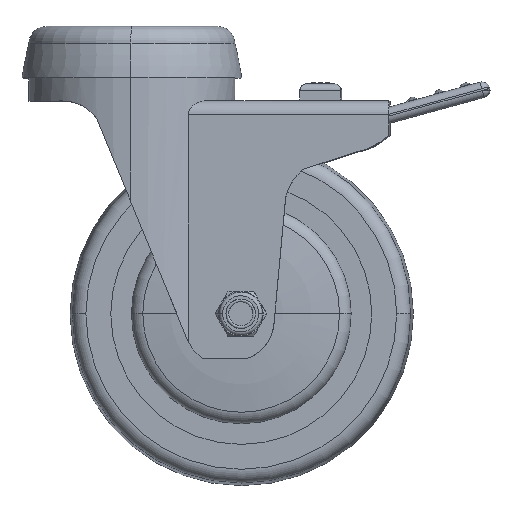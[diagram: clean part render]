
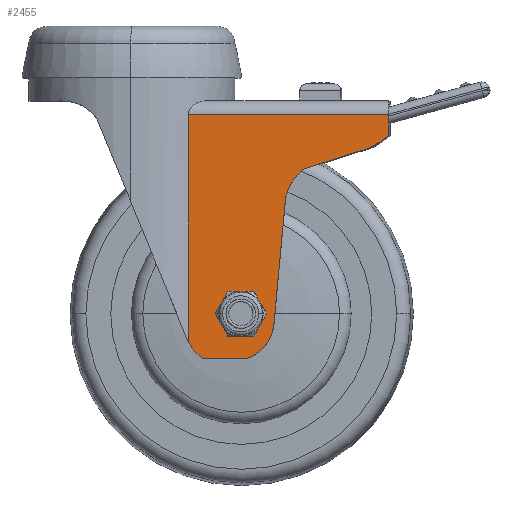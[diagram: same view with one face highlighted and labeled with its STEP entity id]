
A CAD part, top view. The second image highlights one B-rep face of the part: STEP entity #2455.
In plain terms, the highlighted planar face has unit normal (-0.009, 0, 1) as drawn and (0, 0, 1) by its records, which use the part's own axes.
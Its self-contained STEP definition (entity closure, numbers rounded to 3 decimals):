
#887 = AXIS2_PLACEMENT_3D ( 'NONE', #16455, #27124, #4292 ) ;
#1059 = DIRECTION ( 'NONE',  ( -0.949, -0.316, 0. ) ) ;
#1075 = CARTESIAN_POINT ( 'NONE',  ( 75., 0., 25. ) ) ;
#1090 = DIRECTION ( 'NONE',  ( 0., 1., 0. ) ) ;
#1648 = CARTESIAN_POINT ( 'NONE',  ( 45., 46.972, 25. ) ) ;
#1728 = CARTESIAN_POINT ( 'NONE',  ( 75., 71., 25. ) ) ;
#2043 = CARTESIAN_POINT ( 'NONE',  ( 29.326, 11.485, 25. ) ) ;
#2058 = EDGE_LOOP ( 'NONE', ( #11653, #2408, #27930, #7252, #31592, #13336, #11406, #19766, #15121, #6266 ) ) ;
#2073 = VERTEX_POINT ( 'NONE', #21523 ) ;
#2364 = VECTOR ( 'NONE', #19370, 1000. ) ;
#2408 = ORIENTED_EDGE ( 'NONE', *, *, #3617, .T. ) ;
#2455 = ADVANCED_FACE ( 'NONE', ( #3626, #19437 ), #26618, .F. ) ;
#2960 = CARTESIAN_POINT ( 'NONE',  ( 33.931, 0., 25. ) ) ;
#3053 = EDGE_CURVE ( 'NONE', #15424, #3777, #28543, .T. ) ;
#3129 = CIRCLE ( 'NONE', #28133, 14.298 ) ;
#3157 = CARTESIAN_POINT ( 'NONE',  ( 75., 65., 25. ) ) ;
#3386 = EDGE_CURVE ( 'NONE', #5212, #10519, #21215, .T. ) ;
#3617 = EDGE_CURVE ( 'NONE', #15424, #19805, #10057, .T. ) ;
#3626 = FACE_BOUND ( 'NONE', #30944, .T. ) ;
#3643 = EDGE_CURVE ( 'NONE', #3777, #22900, #25277, .T. ) ;
#3777 = VERTEX_POINT ( 'NONE', #3157 ) ;
#3912 = VERTEX_POINT ( 'NONE', #15447 ) ;
#4292 = DIRECTION ( 'NONE',  ( 0., 1., 0. ) ) ;
#4769 = CIRCLE ( 'NONE', #10628, 11.834 ) ;
#5212 = VERTEX_POINT ( 'NONE', #18359 ) ;
#5279 = ORIENTED_EDGE ( 'NONE', *, *, #16064, .F. ) ;
#5788 = DIRECTION ( 'NONE',  ( 0., 1., 0. ) ) ;
#5856 = CARTESIAN_POINT ( 'NONE',  ( 16.583, 71., 25. ) ) ;
#5982 = DIRECTION ( 'NONE',  ( 0., 0., -1. ) ) ;
#6069 = CARTESIAN_POINT ( 'NONE',  ( 32., 13., 25. ) ) ;
#6223 = AXIS2_PLACEMENT_3D ( 'NONE', #6069, #16233, #28893 ) ;
#6266 = ORIENTED_EDGE ( 'NONE', *, *, #3643, .F. ) ;
#6709 = CARTESIAN_POINT ( 'NONE',  ( 65., 60., 25. ) ) ;
#7088 = EDGE_CURVE ( 'NONE', #30026, #10519, #16027, .T. ) ;
#7252 = ORIENTED_EDGE ( 'NONE', *, *, #9091, .F. ) ;
#7718 = EDGE_CURVE ( 'NONE', #19805, #14814, #21723, .T. ) ;
#8190 = DIRECTION ( 'NONE',  ( 1., 0., 0. ) ) ;
#8822 = VERTEX_POINT ( 'NONE', #17876 ) ;
#9091 = EDGE_CURVE ( 'NONE', #3912, #14814, #3129, .T. ) ;
#10057 = LINE ( 'NONE', #1728, #25795 ) ;
#10427 = CIRCLE ( 'NONE', #25336, 4. ) ;
#10519 = VERTEX_POINT ( 'NONE', #1648 ) ;
#10628 = AXIS2_PLACEMENT_3D ( 'NONE', #28746, #21076, #1090 ) ;
#10656 = VECTOR ( 'NONE', #11247, 1000. ) ;
#10734 = CARTESIAN_POINT ( 'NONE',  ( 78.5, 64.5, 25. ) ) ;
#10997 = DIRECTION ( 'NONE',  ( 0., 1., 0. ) ) ;
#11247 = DIRECTION ( 'NONE',  ( -1., 0., 0. ) ) ;
#11406 = ORIENTED_EDGE ( 'NONE', *, *, #3386, .T. ) ;
#11555 = EDGE_CURVE ( 'NONE', #15725, #3912, #16236, .T. ) ;
#11653 = ORIENTED_EDGE ( 'NONE', *, *, #3053, .F. ) ;
#11878 = DIRECTION ( 'NONE',  ( -1., 0., 0. ) ) ;
#12689 = CARTESIAN_POINT ( 'NONE',  ( 32., 13., 25. ) ) ;
#12969 = ORIENTED_EDGE ( 'NONE', *, *, #29276, .F. ) ;
#13336 = ORIENTED_EDGE ( 'NONE', *, *, #13641, .T. ) ;
#13641 = EDGE_CURVE ( 'NONE', #15725, #5212, #4769, .T. ) ;
#14039 = DIRECTION ( 'NONE',  ( 0., 1., 0. ) ) ;
#14219 = CIRCLE ( 'NONE', #6223, 4. ) ;
#14814 = VERTEX_POINT ( 'NONE', #29880 ) ;
#14886 = CARTESIAN_POINT ( 'NONE',  ( 61.412, 79.676, 25. ) ) ;
#15121 = ORIENTED_EDGE ( 'NONE', *, *, #24854, .F. ) ;
#15424 = VERTEX_POINT ( 'NONE', #31003 ) ;
#15447 = CARTESIAN_POINT ( 'NONE',  ( 20.81, 0., 25. ) ) ;
#15725 = VERTEX_POINT ( 'NONE', #2960 ) ;
#16027 = CIRCLE ( 'NONE', #26150, 15. ) ;
#16064 = EDGE_CURVE ( 'NONE', #2073, #8822, #14219, .T. ) ;
#16233 = DIRECTION ( 'NONE',  ( 0., 0., 1. ) ) ;
#16236 = LINE ( 'NONE', #1075, #10656 ) ;
#16455 = CARTESIAN_POINT ( 'NONE',  ( 75., 75., 25. ) ) ;
#16736 = DIRECTION ( 'NONE',  ( 0., -1., 0. ) ) ;
#16758 = AXIS2_PLACEMENT_3D ( 'NONE', #14886, #5982, #10997 ) ;
#17876 = CARTESIAN_POINT ( 'NONE',  ( 28., 13., 25. ) ) ;
#18359 = CARTESIAN_POINT ( 'NONE',  ( 41.583, 10., 25. ) ) ;
#18369 = DIRECTION ( 'NONE',  ( 0., -1., 0. ) ) ;
#18930 = DIRECTION ( 'NONE',  ( 0., 0., 1. ) ) ;
#19370 = DIRECTION ( 'NONE',  ( 0.092, 0.996, 0. ) ) ;
#19437 = FACE_OUTER_BOUND ( 'NONE', #2058, .T. ) ;
#19766 = ORIENTED_EDGE ( 'NONE', *, *, #7088, .F. ) ;
#19805 = VERTEX_POINT ( 'NONE', #5856 ) ;
#19982 = VECTOR ( 'NONE', #1059, 1000. ) ;
#21076 = DIRECTION ( 'NONE',  ( 0., 0., 1. ) ) ;
#21215 = LINE ( 'NONE', #21549, #2364 ) ;
#21267 = CARTESIAN_POINT ( 'NONE',  ( 59.583, 43.46, 25. ) ) ;
#21523 = CARTESIAN_POINT ( 'NONE',  ( 36., 13., 25. ) ) ;
#21549 = CARTESIAN_POINT ( 'NONE',  ( 47.822, 77.512, 25. ) ) ;
#21723 = LINE ( 'NONE', #27536, #31959 ) ;
#22900 = VERTEX_POINT ( 'NONE', #6709 ) ;
#23749 = CARTESIAN_POINT ( 'NONE',  ( 50., 55., 25. ) ) ;
#24854 = EDGE_CURVE ( 'NONE', #22900, #30026, #28225, .T. ) ;
#24876 = DIRECTION ( 'NONE',  ( 0., 0., -1. ) ) ;
#25277 = CIRCLE ( 'NONE', #16758, 20. ) ;
#25336 = AXIS2_PLACEMENT_3D ( 'NONE', #12689, #28509, #8190 ) ;
#25795 = VECTOR ( 'NONE', #11878, 1000. ) ;
#26150 = AXIS2_PLACEMENT_3D ( 'NONE', #21267, #18930, #5788 ) ;
#26618 = PLANE ( 'NONE',  #887 ) ;
#27124 = DIRECTION ( 'NONE',  ( 0., 0., -1. ) ) ;
#27536 = CARTESIAN_POINT ( 'NONE',  ( 16.583, 95., 25. ) ) ;
#27930 = ORIENTED_EDGE ( 'NONE', *, *, #7718, .T. ) ;
#28133 = AXIS2_PLACEMENT_3D ( 'NONE', #2043, #24876, #14039 ) ;
#28225 = LINE ( 'NONE', #10734, #19982 ) ;
#28509 = DIRECTION ( 'NONE',  ( 0., 0., 1. ) ) ;
#28543 = LINE ( 'NONE', #30883, #32698 ) ;
#28746 = CARTESIAN_POINT ( 'NONE',  ( 29.8, 11.089, 25. ) ) ;
#28893 = DIRECTION ( 'NONE',  ( 1., 0., 0. ) ) ;
#29276 = EDGE_CURVE ( 'NONE', #8822, #2073, #10427, .T. ) ;
#29880 = CARTESIAN_POINT ( 'NONE',  ( 16.583, 5., 25. ) ) ;
#30026 = VERTEX_POINT ( 'NONE', #23749 ) ;
#30883 = CARTESIAN_POINT ( 'NONE',  ( 75., 75., 25. ) ) ;
#30944 = EDGE_LOOP ( 'NONE', ( #5279, #12969 ) ) ;
#31003 = CARTESIAN_POINT ( 'NONE',  ( 75., 71., 25. ) ) ;
#31592 = ORIENTED_EDGE ( 'NONE', *, *, #11555, .F. ) ;
#31959 = VECTOR ( 'NONE', #16736, 1000. ) ;
#32698 = VECTOR ( 'NONE', #18369, 1000. ) ;
